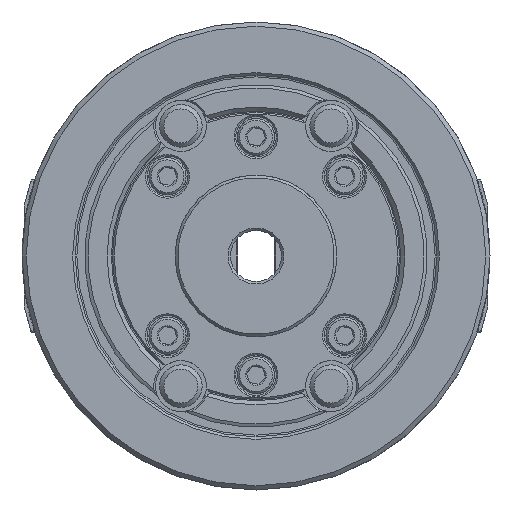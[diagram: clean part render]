
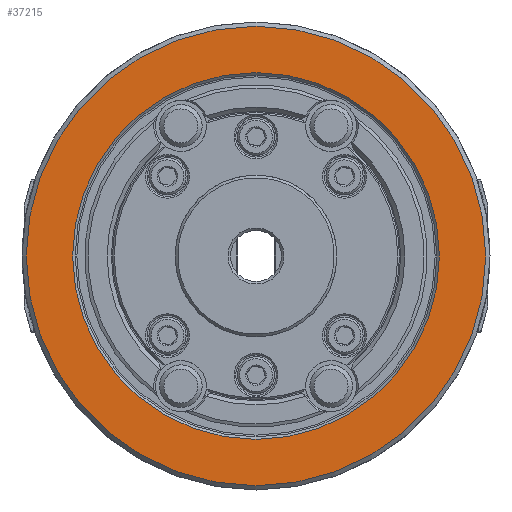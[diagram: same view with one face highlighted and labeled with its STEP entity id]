
A CAD part, left-side view. The second image highlights one B-rep face of the part: STEP entity #37215.
In plain terms, the highlighted planar face has unit normal (-1, 0, 0).
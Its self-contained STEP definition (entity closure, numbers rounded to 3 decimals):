
#629 = EDGE_LOOP ( 'NONE', ( #4719 ) ) ;
#786 = DIRECTION ( 'NONE',  ( 1., 0., 0. ) ) ;
#4665 = CARTESIAN_POINT ( 'NONE',  ( -59., 0., -43.1 ) ) ;
#4719 = ORIENTED_EDGE ( 'NONE', *, *, #24524, .T. ) ;
#5080 = CIRCLE ( 'NONE', #20192, 43.1 ) ;
#10512 = DIRECTION ( 'NONE',  ( 0., 0., -1. ) ) ;
#11742 = AXIS2_PLACEMENT_3D ( 'NONE', #42495, #13452, #56660 ) ;
#12917 = CARTESIAN_POINT ( 'NONE',  ( -59., 0., -54. ) ) ;
#13452 = DIRECTION ( 'NONE',  ( 1., 0., 0. ) ) ;
#15401 = EDGE_CURVE ( 'NONE', #25889, #25889, #21826, .T. ) ;
#15562 = CARTESIAN_POINT ( 'NONE',  ( -59., -43.1, 0. ) ) ;
#19340 = ORIENTED_EDGE ( 'NONE', *, *, #15401, .F. ) ;
#20192 = AXIS2_PLACEMENT_3D ( 'NONE', #35213, #786, #40554 ) ;
#21622 = AXIS2_PLACEMENT_3D ( 'NONE', #15562, #29772, #10512 ) ;
#21826 = CIRCLE ( 'NONE', #11742, 54. ) ;
#24524 = EDGE_CURVE ( 'NONE', #32795, #32795, #5080, .T. ) ;
#25889 = VERTEX_POINT ( 'NONE', #12917 ) ;
#29772 = DIRECTION ( 'NONE',  ( 1., 0., 0. ) ) ;
#30393 = PLANE ( 'NONE',  #21622 ) ;
#30705 = FACE_BOUND ( 'NONE', #629, .T. ) ;
#32795 = VERTEX_POINT ( 'NONE', #4665 ) ;
#35213 = CARTESIAN_POINT ( 'NONE',  ( -59., 0., 0. ) ) ;
#37215 = ADVANCED_FACE ( 'NONE', ( #59684, #30705 ), #30393, .F. ) ;
#40554 = DIRECTION ( 'NONE',  ( 0., 0., -1. ) ) ;
#42495 = CARTESIAN_POINT ( 'NONE',  ( -59., 0., 0. ) ) ;
#43356 = EDGE_LOOP ( 'NONE', ( #19340 ) ) ;
#56660 = DIRECTION ( 'NONE',  ( 0., 0., -1. ) ) ;
#59684 = FACE_OUTER_BOUND ( 'NONE', #43356, .T. ) ;
